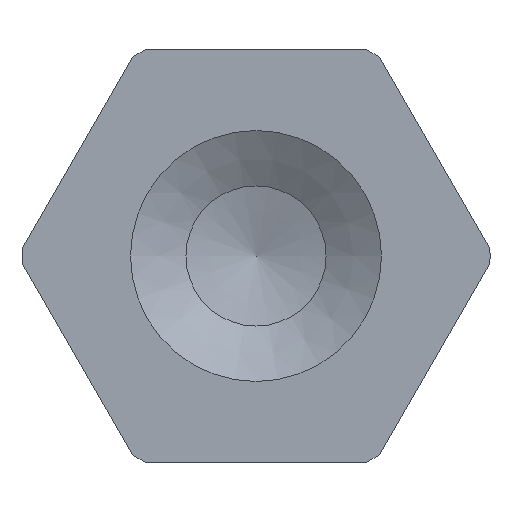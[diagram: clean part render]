
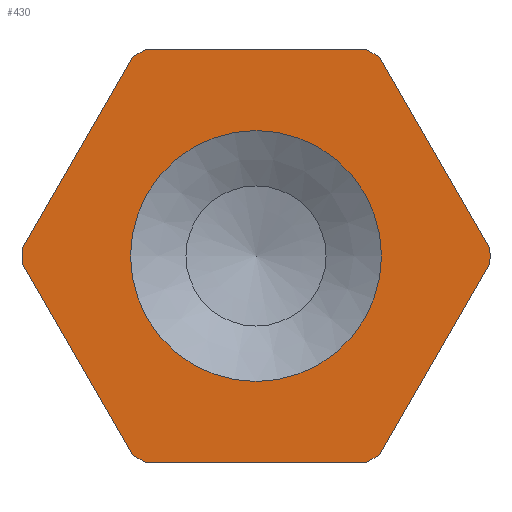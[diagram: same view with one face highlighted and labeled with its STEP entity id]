
A CAD part, left-side view. The second image highlights one B-rep face of the part: STEP entity #430.
In plain terms, the highlighted planar face has unit normal (-1, 0, 0).
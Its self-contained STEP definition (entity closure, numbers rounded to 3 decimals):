
#18=LINE($,#692,#42);
#19=LINE($,#696,#43);
#20=LINE($,#700,#44);
#21=LINE($,#704,#45);
#22=LINE($,#708,#46);
#23=LINE($,#712,#47);
#42=VECTOR($,#552,3.394);
#43=VECTOR($,#555,3.394);
#44=VECTOR($,#558,3.394);
#45=VECTOR($,#561,3.394);
#46=VECTOR($,#564,3.394);
#47=VECTOR($,#567,3.394);
#61=PLANE($,#472);
#90=FACE_BOUND($,#138,.T.);
#91=FACE_BOUND($,#139,.T.);
#138=EDGE_LOOP($,(#310));
#139=EDGE_LOOP($,(#311,#312,#313,#314,#315,#316,#317,#318,#319,#320,#321,
#322));
#176=CIRCLE($,#461,1.93);
#185=CIRCLE($,#473,3.6);
#186=CIRCLE($,#474,3.6);
#187=CIRCLE($,#475,3.6);
#188=CIRCLE($,#476,3.6);
#189=CIRCLE($,#477,3.6);
#190=CIRCLE($,#478,3.6);
#203=VERTEX_POINT($,#657);
#218=VERTEX_POINT($,#690);
#219=VERTEX_POINT($,#691);
#220=VERTEX_POINT($,#693);
#221=VERTEX_POINT($,#695);
#222=VERTEX_POINT($,#697);
#223=VERTEX_POINT($,#699);
#224=VERTEX_POINT($,#701);
#225=VERTEX_POINT($,#703);
#226=VERTEX_POINT($,#705);
#227=VERTEX_POINT($,#707);
#228=VERTEX_POINT($,#709);
#229=VERTEX_POINT($,#711);
#242=EDGE_CURVE($,#203,#203,#176,.T.);
#257=EDGE_CURVE($,#218,#219,#18,.T.);
#258=EDGE_CURVE($,#219,#220,#185,.T.);
#259=EDGE_CURVE($,#220,#221,#19,.T.);
#260=EDGE_CURVE($,#221,#222,#186,.T.);
#261=EDGE_CURVE($,#222,#223,#20,.T.);
#262=EDGE_CURVE($,#223,#224,#187,.T.);
#263=EDGE_CURVE($,#224,#225,#21,.T.);
#264=EDGE_CURVE($,#225,#226,#188,.T.);
#265=EDGE_CURVE($,#226,#227,#22,.T.);
#266=EDGE_CURVE($,#227,#228,#189,.T.);
#267=EDGE_CURVE($,#228,#229,#23,.T.);
#268=EDGE_CURVE($,#229,#218,#190,.T.);
#310=ORIENTED_EDGE($,*,*,#242,.T.);
#311=ORIENTED_EDGE($,*,*,#257,.T.);
#312=ORIENTED_EDGE($,*,*,#258,.T.);
#313=ORIENTED_EDGE($,*,*,#259,.T.);
#314=ORIENTED_EDGE($,*,*,#260,.T.);
#315=ORIENTED_EDGE($,*,*,#261,.T.);
#316=ORIENTED_EDGE($,*,*,#262,.T.);
#317=ORIENTED_EDGE($,*,*,#263,.T.);
#318=ORIENTED_EDGE($,*,*,#264,.T.);
#319=ORIENTED_EDGE($,*,*,#265,.T.);
#320=ORIENTED_EDGE($,*,*,#266,.T.);
#321=ORIENTED_EDGE($,*,*,#267,.T.);
#322=ORIENTED_EDGE($,*,*,#268,.T.);
#430=ADVANCED_FACE($,(#90,#91),#61,.T.);
#461=AXIS2_PLACEMENT_3D($,#658,#522,#523);
#472=AXIS2_PLACEMENT_3D($,#689,#550,#551);
#473=AXIS2_PLACEMENT_3D($,#694,#553,#554);
#474=AXIS2_PLACEMENT_3D($,#698,#556,#557);
#475=AXIS2_PLACEMENT_3D($,#702,#559,#560);
#476=AXIS2_PLACEMENT_3D($,#706,#562,#563);
#477=AXIS2_PLACEMENT_3D($,#710,#565,#566);
#478=AXIS2_PLACEMENT_3D($,#713,#568,#569);
#522=DIRECTION('center_axis',(1.,0.,0.));
#523=DIRECTION('ref_axis',(0.,-1.,0.));
#550=DIRECTION('center_axis',(-1.,0.,0.));
#551=DIRECTION('ref_axis',(0.,0.866,0.5));
#552=DIRECTION($,(0.,-1.,0.));
#553=DIRECTION('center_axis',(-1.,0.,0.));
#554=DIRECTION('ref_axis',(0.,0.5,-0.866));
#555=DIRECTION($,(0.,-0.5,0.866));
#556=DIRECTION('center_axis',(-1.,0.,0.));
#557=DIRECTION('ref_axis',(0.,0.5,-0.866));
#558=DIRECTION($,(0.,0.5,0.866));
#559=DIRECTION('center_axis',(-1.,0.,0.));
#560=DIRECTION('ref_axis',(0.,0.5,-0.866));
#561=DIRECTION($,(0.,1.,0.));
#562=DIRECTION('center_axis',(-1.,0.,0.));
#563=DIRECTION('ref_axis',(0.,0.5,-0.866));
#564=DIRECTION($,(0.,0.5,-0.866));
#565=DIRECTION('center_axis',(-1.,0.,0.));
#566=DIRECTION('ref_axis',(0.,0.5,-0.866));
#567=DIRECTION($,(0.,-0.5,-0.866));
#568=DIRECTION('center_axis',(-1.,0.,0.));
#569=DIRECTION('ref_axis',(0.,0.5,-0.866));
#657=CARTESIAN_POINT('',(-1.574,-1.93,0.));
#658=CARTESIAN_POINT('Origin',(-1.574,0.,
0.));
#689=CARTESIAN_POINT('Origin',(-1.574,0.9,-1.559));
#690=CARTESIAN_POINT('',(-1.574,1.697,-3.175));
#691=CARTESIAN_POINT('',(-1.574,-1.697,-3.175));
#692=CARTESIAN_POINT($,(-1.574,0.497,-3.175));
#693=CARTESIAN_POINT('',(-1.574,-1.901,-3.057));
#694=CARTESIAN_POINT('Origin',(-1.574,0.,
0.));
#695=CARTESIAN_POINT('',(-1.574,-3.598,-0.118));
#696=CARTESIAN_POINT($,(-1.574,-2.276,-2.408));
#697=CARTESIAN_POINT('',(-1.574,-3.598,0.118));
#698=CARTESIAN_POINT('Origin',(-1.574,0.,
0.));
#699=CARTESIAN_POINT('',(-1.574,-1.901,3.057));
#700=CARTESIAN_POINT($,(-1.574,-2.998,1.157));
#701=CARTESIAN_POINT('',(-1.574,-1.697,3.175));
#702=CARTESIAN_POINT('Origin',(-1.574,0.,
0.));
#703=CARTESIAN_POINT('',(-1.574,1.697,3.175));
#704=CARTESIAN_POINT($,(-1.574,0.403,3.175));
#705=CARTESIAN_POINT('',(-1.574,1.901,3.057));
#706=CARTESIAN_POINT('Origin',(-1.574,0.,
0.));
#707=CARTESIAN_POINT('',(-1.574,3.598,0.118));
#708=CARTESIAN_POINT($,(-1.574,3.176,0.849));
#709=CARTESIAN_POINT('',(-1.574,3.598,-0.118));
#710=CARTESIAN_POINT('Origin',(-1.574,0.,
0.));
#711=CARTESIAN_POINT('',(-1.574,1.901,-3.057));
#712=CARTESIAN_POINT($,(-1.574,2.548,-1.936));
#713=CARTESIAN_POINT('Origin',(-1.574,0.,
0.));
